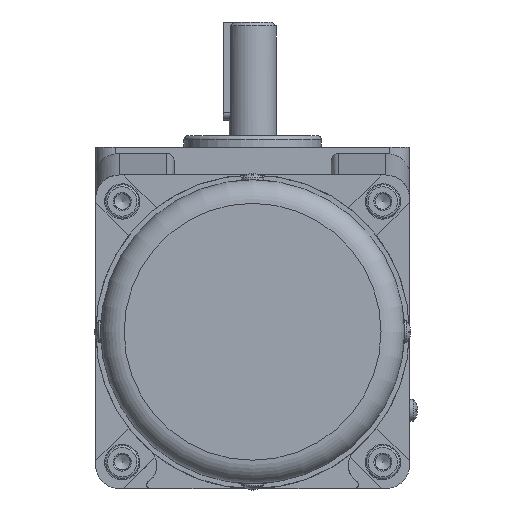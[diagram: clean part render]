
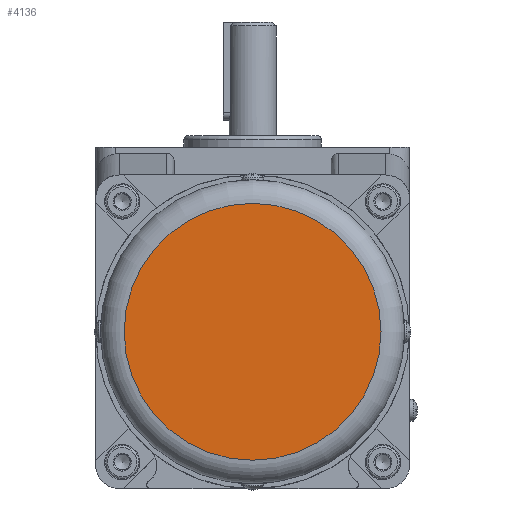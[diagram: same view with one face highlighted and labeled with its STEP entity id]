
A CAD part, front view. The second image highlights one B-rep face of the part: STEP entity #4136.
In plain terms, the highlighted planar face has unit normal (0, -1, 0).
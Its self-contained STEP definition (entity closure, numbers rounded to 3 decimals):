
#868=FACE_OUTER_BOUND('',#5574,.T.);
#4136=ADVANCED_FACE('',(#868),#4523,.T.);
#4523=PLANE('',#12642);
#5574=EDGE_LOOP('',(#8078));
#8078=ORIENTED_EDGE('',*,*,#10666,.T.);
#9318=VERTEX_POINT('',#20011);
#10666=EDGE_CURVE('',#9318,#9318,#11336,.T.);
#11336=CIRCLE('',#12640,32.75);
#12640=AXIS2_PLACEMENT_3D('',#20010,#15446,#15447);
#12642=AXIS2_PLACEMENT_3D('',#20013,#15450,#15451);
#15446=DIRECTION('',(0.,-1.,0.));
#15447=DIRECTION('',(1.,0.,0.));
#15450=DIRECTION('',(0.,-1.,0.));
#15451=DIRECTION('',(1.,0.,0.));
#20010=CARTESIAN_POINT('',(0.,-208.,-47.));
#20011=CARTESIAN_POINT('',(32.75,-208.,-47.));
#20013=CARTESIAN_POINT('',(0.,-208.,-47.));
